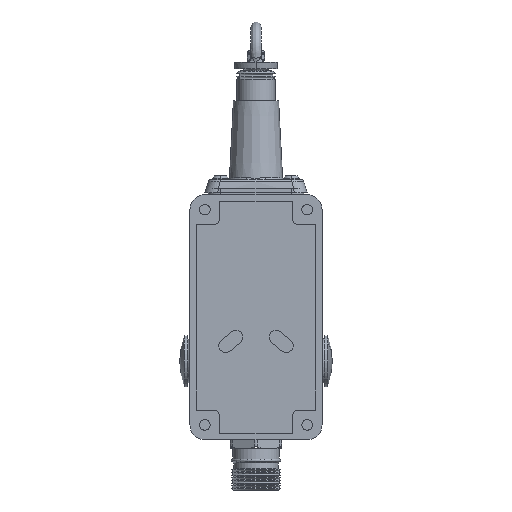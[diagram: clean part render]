
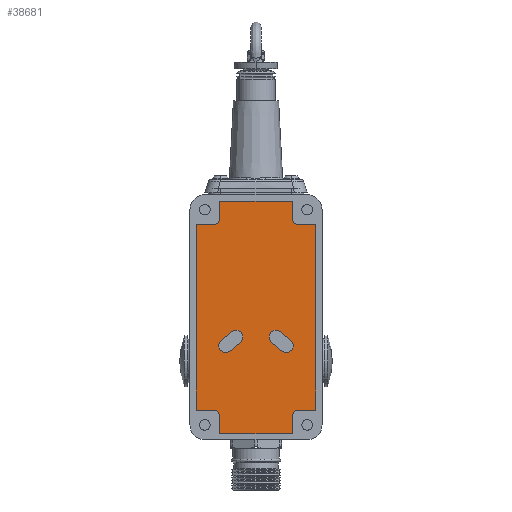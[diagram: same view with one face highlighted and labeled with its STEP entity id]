
A CAD part, front view. The second image highlights one B-rep face of the part: STEP entity #38681.
In plain terms, the highlighted planar face has unit normal (0, -1, 0).
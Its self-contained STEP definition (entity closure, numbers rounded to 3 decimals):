
#36110=DIRECTION('',(-1.,0.,0.));
#36111=VECTOR('',#36110,34.);
#36112=CARTESIAN_POINT('',(-19.056,-14.44,
-11.575));
#36113=LINE('',#36112,#36111);
#36114=DIRECTION('',(0.,0.,1.));
#36115=VECTOR('',#36114,8.);
#36116=CARTESIAN_POINT('',(-53.056,-14.44,
-11.575));
#36117=LINE('',#36116,#36115);
#36118=CARTESIAN_POINT('',(-56.056,-14.44,
-3.575));
#36119=DIRECTION('',(0.,-1.,0.));
#36120=DIRECTION('',(1.,0.,0.));
#36121=AXIS2_PLACEMENT_3D('',#36118,#36119,#36120);
#36123=DIRECTION('',(-1.,0.,0.));
#36124=VECTOR('',#36123,8.);
#36125=CARTESIAN_POINT('',(-56.056,-14.44,
-0.575));
#36126=LINE('',#36125,#36124);
#36127=DIRECTION('',(0.,0.,1.));
#36128=VECTOR('',#36127,87.);
#36129=CARTESIAN_POINT('',(-64.056,-14.44,
-0.575));
#36130=LINE('',#36129,#36128);
#36131=DIRECTION('',(1.,0.,0.));
#36132=VECTOR('',#36131,8.);
#36133=CARTESIAN_POINT('',(-64.056,-14.44,
86.425));
#36134=LINE('',#36133,#36132);
#36135=CARTESIAN_POINT('',(-56.056,-14.44,
89.425));
#36136=DIRECTION('',(0.,-1.,0.));
#36137=DIRECTION('',(0.,0.,-1.));
#36138=AXIS2_PLACEMENT_3D('',#36135,#36136,#36137);
#36140=DIRECTION('',(0.,0.,1.));
#36141=VECTOR('',#36140,8.);
#36142=CARTESIAN_POINT('',(-53.056,-14.44,
89.425));
#36143=LINE('',#36142,#36141);
#36144=DIRECTION('',(1.,0.,0.));
#36145=VECTOR('',#36144,34.);
#36146=CARTESIAN_POINT('',(-53.056,-14.44,
97.425));
#36147=LINE('',#36146,#36145);
#36148=DIRECTION('',(0.,0.,-1.));
#36149=VECTOR('',#36148,8.);
#36150=CARTESIAN_POINT('',(-19.056,-14.44,
97.425));
#36151=LINE('',#36150,#36149);
#36152=CARTESIAN_POINT('',(-16.056,-14.44,
89.425));
#36153=DIRECTION('',(0.,-1.,0.));
#36154=DIRECTION('',(-1.,0.,0.));
#36155=AXIS2_PLACEMENT_3D('',#36152,#36153,#36154);
#36157=DIRECTION('',(1.,0.,0.));
#36158=VECTOR('',#36157,8.);
#36159=CARTESIAN_POINT('',(-16.056,-14.44,
86.425));
#36160=LINE('',#36159,#36158);
#36161=DIRECTION('',(0.,0.,-1.));
#36162=VECTOR('',#36161,87.);
#36163=CARTESIAN_POINT('',(-8.056,-14.44,
86.425));
#36164=LINE('',#36163,#36162);
#36165=DIRECTION('',(-1.,0.,0.));
#36166=VECTOR('',#36165,8.);
#36167=CARTESIAN_POINT('',(-8.056,-14.44,
-0.575));
#36168=LINE('',#36167,#36166);
#36169=CARTESIAN_POINT('',(-16.056,-14.44,
-3.575));
#36170=DIRECTION('',(0.,-1.,0.));
#36171=DIRECTION('',(0.,0.,1.));
#36172=AXIS2_PLACEMENT_3D('',#36169,#36170,#36171);
#36174=DIRECTION('',(0.,0.,-1.));
#36175=VECTOR('',#36174,8.);
#36176=CARTESIAN_POINT('',(-19.056,-14.44,
-3.575));
#36177=LINE('',#36176,#36175);
#36178=CARTESIAN_POINT('',(-21.856,-14.44,
29.625));
#36179=DIRECTION('',(0.,1.,0.));
#36180=DIRECTION('',(0.,0.,-1.));
#36181=AXIS2_PLACEMENT_3D('',#36178,#36179,#36180);
#36187=CARTESIAN_POINT('',(-21.856,-14.44,
29.625));
#36188=DIRECTION('',(0.,1.,0.));
#36189=DIRECTION('',(0.648,0.,0.762));
#36190=AXIS2_PLACEMENT_3D('',#36187,#36188,#36189);
#36219=DIRECTION('',(-0.762,0.,0.648));
#36220=VECTOR('',#36219,6.172);
#36221=CARTESIAN_POINT('',(-23.963,-14.44,
27.15));
#36222=LINE('',#36221,#36220);
#36227=CARTESIAN_POINT('',(-26.556,-14.44,
33.625));
#36228=DIRECTION('',(0.,1.,0.));
#36229=DIRECTION('',(-0.648,0.,-0.762));
#36230=AXIS2_PLACEMENT_3D('',#36227,#36228,#36229);
#36236=DIRECTION('',(0.762,0.,-0.648));
#36237=VECTOR('',#36236,6.172);
#36238=CARTESIAN_POINT('',(-24.45,-14.44,
36.1));
#36239=LINE('',#36238,#36237);
#36244=CARTESIAN_POINT('',(-45.556,-14.44,
33.625));
#36245=DIRECTION('',(0.,1.,0.));
#36246=DIRECTION('',(-0.648,0.,0.762));
#36247=AXIS2_PLACEMENT_3D('',#36244,#36245,#36246);
#36253=DIRECTION('',(-0.762,0.,-0.648));
#36254=VECTOR('',#36253,6.172);
#36255=CARTESIAN_POINT('',(-43.45,-14.44,
31.15));
#36256=LINE('',#36255,#36254);
#36261=CARTESIAN_POINT('',(-50.256,-14.44,
29.625));
#36262=DIRECTION('',(0.,1.,0.));
#36263=DIRECTION('',(0.648,0.,-0.762));
#36264=AXIS2_PLACEMENT_3D('',#36261,#36262,#36263);
#36293=CARTESIAN_POINT('',(-50.256,-14.44,
29.625));
#36294=DIRECTION('',(0.,1.,0.));
#36295=DIRECTION('',(0.,0.,-1.));
#36296=AXIS2_PLACEMENT_3D('',#36293,#36294,#36295);
#36302=DIRECTION('',(0.762,0.,0.648));
#36303=VECTOR('',#36302,6.172);
#36304=CARTESIAN_POINT('',(-52.363,-14.44,
32.1));
#36305=LINE('',#36304,#36303);
#36460=CARTESIAN_POINT('',(-19.056,-14.44,
-11.575));
#36461=CARTESIAN_POINT('',(-53.056,-14.44,
-11.575));
#36462=VERTEX_POINT('',#36460);
#36463=VERTEX_POINT('',#36461);
#36464=CARTESIAN_POINT('',(-21.856,-14.44,
26.375));
#36465=CARTESIAN_POINT('',(-23.963,-14.44,
27.15));
#36466=VERTEX_POINT('',#36464);
#36467=VERTEX_POINT('',#36465);
#36468=CARTESIAN_POINT('',(-47.663,-14.44,
36.1));
#36469=CARTESIAN_POINT('',(-43.45,-14.44,
31.15));
#36470=VERTEX_POINT('',#36468);
#36471=VERTEX_POINT('',#36469);
#36620=CARTESIAN_POINT('',(-24.45,-14.44,
36.1));
#36621=CARTESIAN_POINT('',(-19.75,-14.44,
32.1));
#36622=VERTEX_POINT('',#36620);
#36623=VERTEX_POINT('',#36621);
#36624=CARTESIAN_POINT('',(-28.663,-14.44,
31.15));
#36625=VERTEX_POINT('',#36624);
#36628=CARTESIAN_POINT('',(-52.363,-14.44,
32.1));
#36629=VERTEX_POINT('',#36628);
#36630=CARTESIAN_POINT('',(-50.256,-14.44,
26.375));
#36631=VERTEX_POINT('',#36630);
#36632=CARTESIAN_POINT('',(-48.15,-14.44,
27.15));
#36633=VERTEX_POINT('',#36632);
#36704=CARTESIAN_POINT('',(-53.056,-14.44,
-3.575));
#36705=VERTEX_POINT('',#36704);
#36706=CARTESIAN_POINT('',(-19.056,-14.44,
-3.575));
#36707=VERTEX_POINT('',#36706);
#36708=CARTESIAN_POINT('',(-16.056,-14.44,
-0.575));
#36709=VERTEX_POINT('',#36708);
#36710=CARTESIAN_POINT('',(-8.056,-14.44,
-0.575));
#36711=VERTEX_POINT('',#36710);
#36712=CARTESIAN_POINT('',(-8.056,-14.44,
86.425));
#36713=VERTEX_POINT('',#36712);
#36714=CARTESIAN_POINT('',(-16.056,-14.44,
86.425));
#36715=VERTEX_POINT('',#36714);
#36716=CARTESIAN_POINT('',(-19.056,-14.44,
89.425));
#36717=VERTEX_POINT('',#36716);
#36718=CARTESIAN_POINT('',(-19.056,-14.44,
97.425));
#36719=VERTEX_POINT('',#36718);
#36720=CARTESIAN_POINT('',(-53.056,-14.44,
97.425));
#36721=VERTEX_POINT('',#36720);
#36722=CARTESIAN_POINT('',(-53.056,-14.44,
89.425));
#36723=VERTEX_POINT('',#36722);
#36724=CARTESIAN_POINT('',(-56.056,-14.44,
86.425));
#36725=VERTEX_POINT('',#36724);
#36726=CARTESIAN_POINT('',(-64.056,-14.44,
86.425));
#36727=VERTEX_POINT('',#36726);
#36728=CARTESIAN_POINT('',(-64.056,-14.44,
-0.575));
#36729=VERTEX_POINT('',#36728);
#36730=CARTESIAN_POINT('',(-56.056,-14.44,
-0.575));
#36731=VERTEX_POINT('',#36730);
#38634=CARTESIAN_POINT('',(-16.056,-14.44,
-3.575));
#38635=DIRECTION('',(0.,1.,0.));
#38636=DIRECTION('',(0.,0.,-1.));
#38637=AXIS2_PLACEMENT_3D('',#38634,#38635,#38636);
#38638=PLANE('',#38637);
#38639=ORIENTED_EDGE('',*,*,#38418,.T.);
#38640=ORIENTED_EDGE('',*,*,#38433,.T.);
#38641=ORIENTED_EDGE('',*,*,#38447,.T.);
#38642=ORIENTED_EDGE('',*,*,#38461,.T.);
#38643=ORIENTED_EDGE('',*,*,#38475,.T.);
#38644=ORIENTED_EDGE('',*,*,#38489,.T.);
#38645=ORIENTED_EDGE('',*,*,#38503,.T.);
#38646=ORIENTED_EDGE('',*,*,#38517,.T.);
#38647=ORIENTED_EDGE('',*,*,#38531,.T.);
#38648=ORIENTED_EDGE('',*,*,#38545,.T.);
#38649=ORIENTED_EDGE('',*,*,#38559,.T.);
#38650=ORIENTED_EDGE('',*,*,#38573,.T.);
#38651=ORIENTED_EDGE('',*,*,#38587,.T.);
#38652=ORIENTED_EDGE('',*,*,#38601,.T.);
#38653=ORIENTED_EDGE('',*,*,#38615,.T.);
#38654=ORIENTED_EDGE('',*,*,#38628,.T.);
#38655=EDGE_LOOP('',(#38639,#38640,#38641,#38642,#38643,#38644,#38645,#38646,
#38647,#38648,#38649,#38650,#38651,#38652,#38653,#38654));
#38656=FACE_OUTER_BOUND('',#38655,.F.);
#38658=ORIENTED_EDGE('',*,*,#38657,.F.);
#38660=ORIENTED_EDGE('',*,*,#38659,.F.);
#38662=ORIENTED_EDGE('',*,*,#38661,.F.);
#38664=ORIENTED_EDGE('',*,*,#38663,.F.);
#38666=ORIENTED_EDGE('',*,*,#38665,.F.);
#38667=EDGE_LOOP('',(#38658,#38660,#38662,#38664,#38666));
#38668=FACE_BOUND('',#38667,.F.);
#38670=ORIENTED_EDGE('',*,*,#38669,.F.);
#38672=ORIENTED_EDGE('',*,*,#38671,.F.);
#38674=ORIENTED_EDGE('',*,*,#38673,.F.);
#38676=ORIENTED_EDGE('',*,*,#38675,.F.);
#38678=ORIENTED_EDGE('',*,*,#38677,.F.);
#38679=EDGE_LOOP('',(#38670,#38672,#38674,#38676,#38678));
#38680=FACE_BOUND('',#38679,.F.);
#38681=ADVANCED_FACE('',(#38656,#38668,#38680),#38638,.F.);
#36122=CIRCLE('',#36121,3.);
#36139=CIRCLE('',#36138,3.);
#36156=CIRCLE('',#36155,3.);
#36173=CIRCLE('',#36172,3.);
#36182=CIRCLE('',#36181,3.25);
#36191=CIRCLE('',#36190,3.25);
#36231=CIRCLE('',#36230,3.25);
#36248=CIRCLE('',#36247,3.25);
#36265=CIRCLE('',#36264,3.25);
#36297=CIRCLE('',#36296,3.25);
#38418=EDGE_CURVE('',#36462,#36463,#36113,.T.);
#38433=EDGE_CURVE('',#36463,#36705,#36117,.T.);
#38447=EDGE_CURVE('',#36705,#36731,#36122,.T.);
#38461=EDGE_CURVE('',#36731,#36729,#36126,.T.);
#38475=EDGE_CURVE('',#36729,#36727,#36130,.T.);
#38489=EDGE_CURVE('',#36727,#36725,#36134,.T.);
#38503=EDGE_CURVE('',#36725,#36723,#36139,.T.);
#38517=EDGE_CURVE('',#36723,#36721,#36143,.T.);
#38531=EDGE_CURVE('',#36721,#36719,#36147,.T.);
#38545=EDGE_CURVE('',#36719,#36717,#36151,.T.);
#38559=EDGE_CURVE('',#36717,#36715,#36156,.T.);
#38573=EDGE_CURVE('',#36715,#36713,#36160,.T.);
#38587=EDGE_CURVE('',#36713,#36711,#36164,.T.);
#38601=EDGE_CURVE('',#36711,#36709,#36168,.T.);
#38615=EDGE_CURVE('',#36709,#36707,#36173,.T.);
#38628=EDGE_CURVE('',#36707,#36462,#36177,.T.);
#38657=EDGE_CURVE('',#36466,#36467,#36182,.T.);
#38659=EDGE_CURVE('',#36623,#36466,#36191,.T.);
#38661=EDGE_CURVE('',#36622,#36623,#36239,.T.);
#38663=EDGE_CURVE('',#36625,#36622,#36231,.T.);
#38665=EDGE_CURVE('',#36467,#36625,#36222,.T.);
#38669=EDGE_CURVE('',#36470,#36471,#36248,.T.);
#38671=EDGE_CURVE('',#36629,#36470,#36305,.T.);
#38673=EDGE_CURVE('',#36631,#36629,#36297,.T.);
#38675=EDGE_CURVE('',#36633,#36631,#36265,.T.);
#38677=EDGE_CURVE('',#36471,#36633,#36256,.T.);
